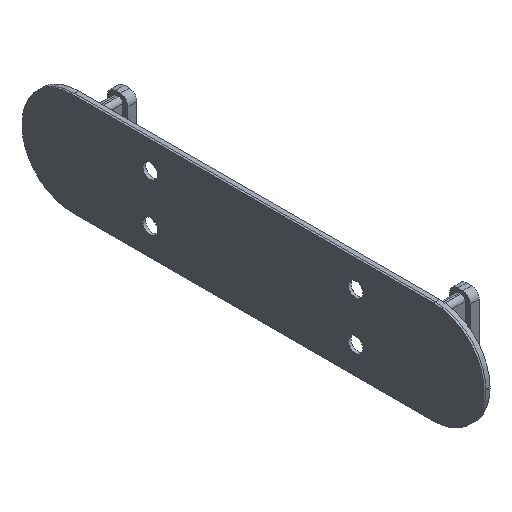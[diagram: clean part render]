
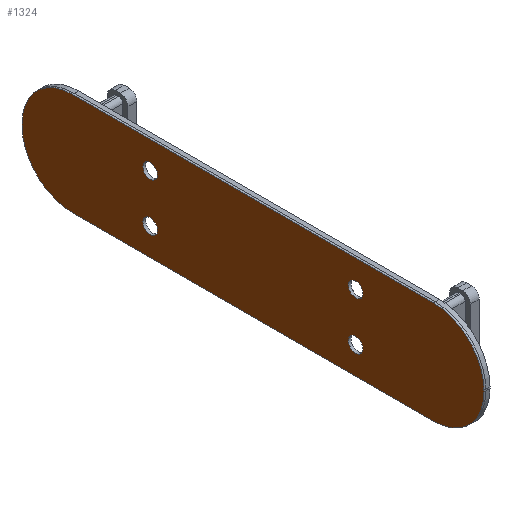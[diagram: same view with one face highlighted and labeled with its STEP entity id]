
A CAD part, isometric view. The second image highlights one B-rep face of the part: STEP entity #1324.
In plain terms, the highlighted planar face has unit normal (-1, 0, 0).
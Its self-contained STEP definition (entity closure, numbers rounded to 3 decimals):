
#19=FACE_BOUND('',#159,.T.);
#20=FACE_BOUND('',#160,.T.);
#21=FACE_BOUND('',#161,.T.);
#22=FACE_BOUND('',#162,.T.);
#37=PLANE('',#1420);
#78=FACE_OUTER_BOUND('',#158,.T.);
#158=EDGE_LOOP('',(#899,#900,#901,#902,#903,#904,#905,#906));
#159=EDGE_LOOP('',(#907));
#160=EDGE_LOOP('',(#908));
#161=EDGE_LOOP('',(#909));
#162=EDGE_LOOP('',(#910));
#257=CIRCLE('',#1421,5.883);
#258=CIRCLE('',#1422,5.883);
#259=CIRCLE('',#1423,5.883);
#260=CIRCLE('',#1424,5.883);
#261=CIRCLE('',#1425,0.85);
#262=CIRCLE('',#1426,0.85);
#263=CIRCLE('',#1427,0.85);
#264=CIRCLE('',#1428,0.85);
#331=LINE('',#2011,#451);
#333=LINE('',#2021,#453);
#334=LINE('',#2025,#454);
#335=LINE('',#2029,#455);
#451=VECTOR('',#1577,1.);
#453=VECTOR('',#1587,1.);
#454=VECTOR('',#1590,1.);
#455=VECTOR('',#1593,1.);
#571=VERTEX_POINT('',#2009);
#572=VERTEX_POINT('',#2010);
#575=VERTEX_POINT('',#2018);
#576=VERTEX_POINT('',#2020);
#577=VERTEX_POINT('',#2022);
#578=VERTEX_POINT('',#2024);
#579=VERTEX_POINT('',#2026);
#580=VERTEX_POINT('',#2028);
#581=VERTEX_POINT('',#2031);
#582=VERTEX_POINT('',#2033);
#583=VERTEX_POINT('',#2035);
#584=VERTEX_POINT('',#2037);
#699=EDGE_CURVE('',#571,#572,#331,.T.);
#703=EDGE_CURVE('',#572,#575,#257,.T.);
#704=EDGE_CURVE('',#575,#576,#333,.T.);
#705=EDGE_CURVE('',#576,#577,#258,.T.);
#706=EDGE_CURVE('',#577,#578,#334,.T.);
#707=EDGE_CURVE('',#578,#579,#259,.T.);
#708=EDGE_CURVE('',#579,#580,#335,.T.);
#709=EDGE_CURVE('',#580,#571,#260,.T.);
#710=EDGE_CURVE('',#581,#581,#261,.T.);
#711=EDGE_CURVE('',#582,#582,#262,.T.);
#712=EDGE_CURVE('',#583,#583,#263,.T.);
#713=EDGE_CURVE('',#584,#584,#264,.T.);
#899=ORIENTED_EDGE('',*,*,#699,.T.);
#900=ORIENTED_EDGE('',*,*,#703,.T.);
#901=ORIENTED_EDGE('',*,*,#704,.T.);
#902=ORIENTED_EDGE('',*,*,#705,.T.);
#903=ORIENTED_EDGE('',*,*,#706,.T.);
#904=ORIENTED_EDGE('',*,*,#707,.T.);
#905=ORIENTED_EDGE('',*,*,#708,.T.);
#906=ORIENTED_EDGE('',*,*,#709,.T.);
#907=ORIENTED_EDGE('',*,*,#710,.T.);
#908=ORIENTED_EDGE('',*,*,#711,.T.);
#909=ORIENTED_EDGE('',*,*,#712,.T.);
#910=ORIENTED_EDGE('',*,*,#713,.T.);
#1324=ADVANCED_FACE('',(#78,#19,#20,#21,#22),#37,.F.);
#1420=AXIS2_PLACEMENT_3D('',#2017,#1583,#1584);
#1421=AXIS2_PLACEMENT_3D('',#2019,#1585,#1586);
#1422=AXIS2_PLACEMENT_3D('',#2023,#1588,#1589);
#1423=AXIS2_PLACEMENT_3D('',#2027,#1591,#1592);
#1424=AXIS2_PLACEMENT_3D('',#2030,#1594,#1595);
#1425=AXIS2_PLACEMENT_3D('',#2032,#1596,#1597);
#1426=AXIS2_PLACEMENT_3D('',#2034,#1598,#1599);
#1427=AXIS2_PLACEMENT_3D('',#2036,#1600,#1601);
#1428=AXIS2_PLACEMENT_3D('',#2038,#1602,#1603);
#1577=DIRECTION('',(0.,0.,1.));
#1583=DIRECTION('center_axis',(1.,0.,0.));
#1584=DIRECTION('ref_axis',(0.,0.,1.));
#1585=DIRECTION('center_axis',(-1.,0.,0.));
#1586=DIRECTION('ref_axis',(0.,0.,1.));
#1587=DIRECTION('',(0.,1.,0.));
#1588=DIRECTION('center_axis',(-1.,0.,0.));
#1589=DIRECTION('ref_axis',(0.,0.,1.));
#1590=DIRECTION('',(0.,0.,-1.));
#1591=DIRECTION('center_axis',(-1.,0.,0.));
#1592=DIRECTION('ref_axis',(0.,0.,1.));
#1593=DIRECTION('',(0.,-1.,0.));
#1594=DIRECTION('center_axis',(-1.,0.,0.));
#1595=DIRECTION('ref_axis',(0.,0.,1.));
#1596=DIRECTION('center_axis',(1.,0.,0.));
#1597=DIRECTION('ref_axis',(0.,1.,0.));
#1598=DIRECTION('center_axis',(1.,0.,0.));
#1599=DIRECTION('ref_axis',(0.,1.,0.));
#1600=DIRECTION('center_axis',(1.,0.,0.));
#1601=DIRECTION('ref_axis',(0.,1.,0.));
#1602=DIRECTION('center_axis',(1.,0.,0.));
#1603=DIRECTION('ref_axis',(0.,1.,0.));
#2009=CARTESIAN_POINT('',(-40.,-14.983,-12.1));
#2010=CARTESIAN_POINT('',(-40.,-14.983,-11.9));
#2011=CARTESIAN_POINT('',(-40.,-14.983,-11.95));
#2017=CARTESIAN_POINT('Origin',(-40.,-80.,-30.));
#2018=CARTESIAN_POINT('',(-40.,-9.1,-6.017));
#2019=CARTESIAN_POINT('Origin',(-40.,-9.1,-11.9));
#2020=CARTESIAN_POINT('',(-40.,33.1,-6.017));
#2021=CARTESIAN_POINT('',(-40.,22.55,-6.017));
#2022=CARTESIAN_POINT('',(-40.,38.983,-11.9));
#2023=CARTESIAN_POINT('Origin',(-40.,33.1,-11.9));
#2024=CARTESIAN_POINT('',(-40.,38.983,-12.1));
#2025=CARTESIAN_POINT('',(-40.,38.983,-12.05));
#2026=CARTESIAN_POINT('',(-40.,33.1,-17.983));
#2027=CARTESIAN_POINT('Origin',(-40.,33.1,-12.1));
#2028=CARTESIAN_POINT('',(-40.,-9.1,-17.983));
#2029=CARTESIAN_POINT('',(-40.,1.45,-17.983));
#2030=CARTESIAN_POINT('Origin',(-40.,-9.1,-12.1));
#2031=CARTESIAN_POINT('',(-40.,23.15,-14.8));
#2032=CARTESIAN_POINT('Origin',(-40.,24.,-14.8));
#2033=CARTESIAN_POINT('',(-40.,23.15,-9.2));
#2034=CARTESIAN_POINT('Origin',(-40.,24.,-9.2));
#2035=CARTESIAN_POINT('',(-40.,-0.85,-14.8));
#2036=CARTESIAN_POINT('Origin',(-40.,0.,-14.8));
#2037=CARTESIAN_POINT('',(-40.,-0.85,-9.2));
#2038=CARTESIAN_POINT('Origin',(-40.,0.,-9.2));
